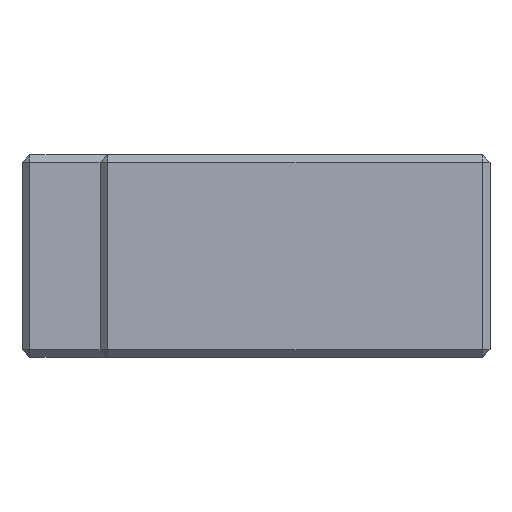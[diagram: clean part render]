
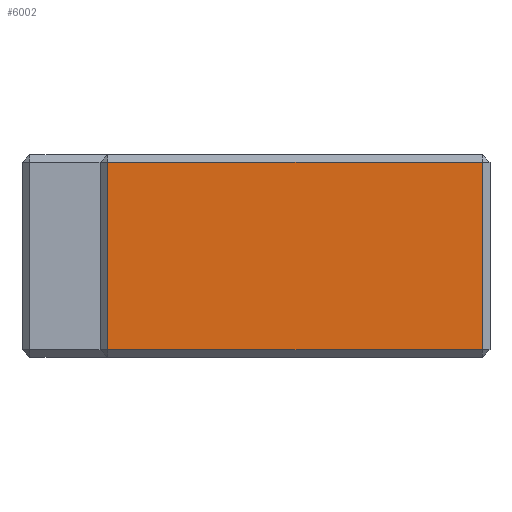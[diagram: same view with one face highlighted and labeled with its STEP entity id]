
A CAD part, left-side view. The second image highlights one B-rep face of the part: STEP entity #6002.
In plain terms, the highlighted planar face has unit normal (-1, 0, 0).
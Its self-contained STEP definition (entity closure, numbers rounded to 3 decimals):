
#68 = CARTESIAN_POINT ( 'NONE',  ( -44., 49., 12. ) ) ;
#188 = EDGE_CURVE ( 'NONE', #2961, #664, #3691, .T. ) ;
#364 = ORIENTED_EDGE ( 'NONE', *, *, #4021, .T. ) ;
#493 = CARTESIAN_POINT ( 'NONE',  ( -44., 49., -12. ) ) ;
#538 = VECTOR ( 'NONE', #4011, 1000. ) ;
#664 = VERTEX_POINT ( 'NONE', #4183 ) ;
#1547 = DIRECTION ( 'NONE',  ( 1., 0., 0. ) ) ;
#1553 = ORIENTED_EDGE ( 'NONE', *, *, #3090, .T. ) ;
#1870 = FACE_OUTER_BOUND ( 'NONE', #2878, .T. ) ;
#1924 = DIRECTION ( 'NONE',  ( 0., 0., -1. ) ) ;
#1932 = CARTESIAN_POINT ( 'NONE',  ( -44., 49., 13. ) ) ;
#2487 = DIRECTION ( 'NONE',  ( 0., -1., 0. ) ) ;
#2545 = VECTOR ( 'NONE', #1924, 1000. ) ;
#2878 = EDGE_LOOP ( 'NONE', ( #7630, #1553, #364, #7801 ) ) ;
#2961 = VERTEX_POINT ( 'NONE', #493 ) ;
#3011 = VERTEX_POINT ( 'NONE', #68 ) ;
#3090 = EDGE_CURVE ( 'NONE', #664, #5151, #3247, .T. ) ;
#3247 = LINE ( 'NONE', #4990, #4580 ) ;
#3630 = AXIS2_PLACEMENT_3D ( 'NONE', #4113, #1547, #4159 ) ;
#3691 = LINE ( 'NONE', #7608, #5039 ) ;
#3951 = CARTESIAN_POINT ( 'NONE',  ( -44., 50., 12. ) ) ;
#4011 = DIRECTION ( 'NONE',  ( 0., 1., 0. ) ) ;
#4021 = EDGE_CURVE ( 'NONE', #5151, #3011, #5384, .T. ) ;
#4059 = CARTESIAN_POINT ( 'NONE',  ( -44., 1., 12. ) ) ;
#4113 = CARTESIAN_POINT ( 'NONE',  ( -44., 50., 13. ) ) ;
#4159 = DIRECTION ( 'NONE',  ( 0., 0., -1. ) ) ;
#4183 = CARTESIAN_POINT ( 'NONE',  ( -44., 1., -12. ) ) ;
#4284 = EDGE_CURVE ( 'NONE', #3011, #2961, #7186, .T. ) ;
#4580 = VECTOR ( 'NONE', #5082, 1000. ) ;
#4990 = CARTESIAN_POINT ( 'NONE',  ( -44., 1., 13. ) ) ;
#5039 = VECTOR ( 'NONE', #2487, 1000. ) ;
#5082 = DIRECTION ( 'NONE',  ( 0., 0., 1. ) ) ;
#5151 = VERTEX_POINT ( 'NONE', #4059 ) ;
#5379 = PLANE ( 'NONE',  #3630 ) ;
#5384 = LINE ( 'NONE', #3951, #538 ) ;
#6002 = ADVANCED_FACE ( 'NONE', ( #1870 ), #5379, .F. ) ;
#7186 = LINE ( 'NONE', #1932, #2545 ) ;
#7608 = CARTESIAN_POINT ( 'NONE',  ( -44., 50., -12. ) ) ;
#7630 = ORIENTED_EDGE ( 'NONE', *, *, #188, .T. ) ;
#7801 = ORIENTED_EDGE ( 'NONE', *, *, #4284, .T. ) ;
